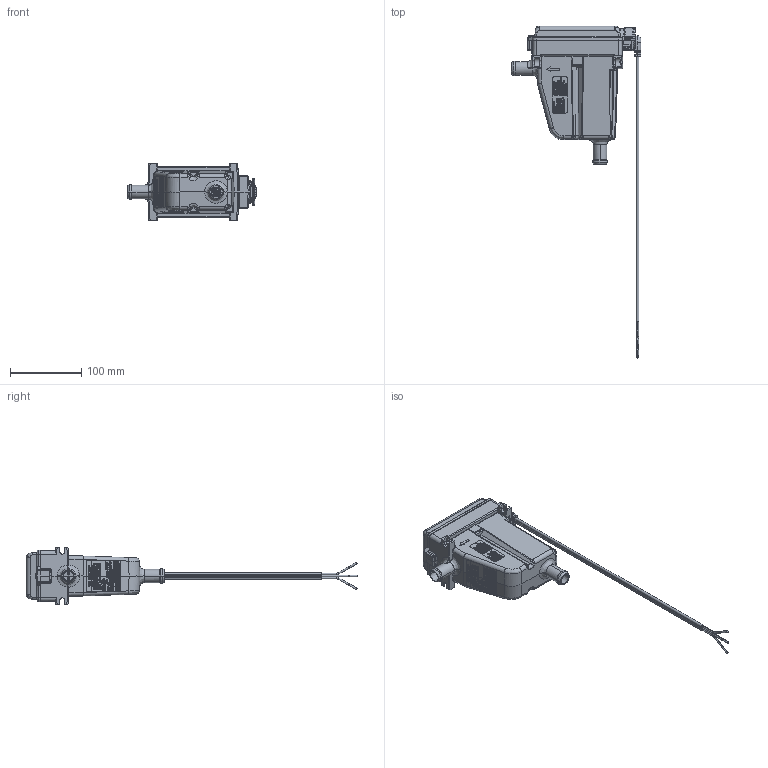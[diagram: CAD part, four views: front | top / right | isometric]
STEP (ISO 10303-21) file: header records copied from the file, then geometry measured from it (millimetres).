
FILE_DESCRIPTION (( 'STEP AP214' ), '1' );
FILE_NAME ('3305077.STEP', '2019-04-12T17:17:43', ( 'admin' ), ( '' ), 'SwSTEP 2.0', 'SolidWorks 2018', '' );
FILE_SCHEMA (( 'AUTOMOTIVE_DESIGN' ));
Length unit declared in the file: inch
Products named in the file (1): 3305077
Bounding box: 181.35 x 464.37 x 79.32 mm (x, y, z)
Surface area: 100656.4 mm2 (no closed solid volume)
Topology: 0 solids, 681 shells, 1364 faces, 36689 edges, 35961 vertices
Faces by surface type: plane 1010, cylinder 220, bspline 86, torus 19, sphere 15, cone 14
Entity records: 338957 total; most frequent: CARTESIAN_POINT 88084, DIRECTION 39181, ORIENTED_EDGE 38082, EDGE_CURVE 36688, VERTEX_POINT 35961, LINE 35847, VECTOR 35847, EDGE_LOOP 2840
